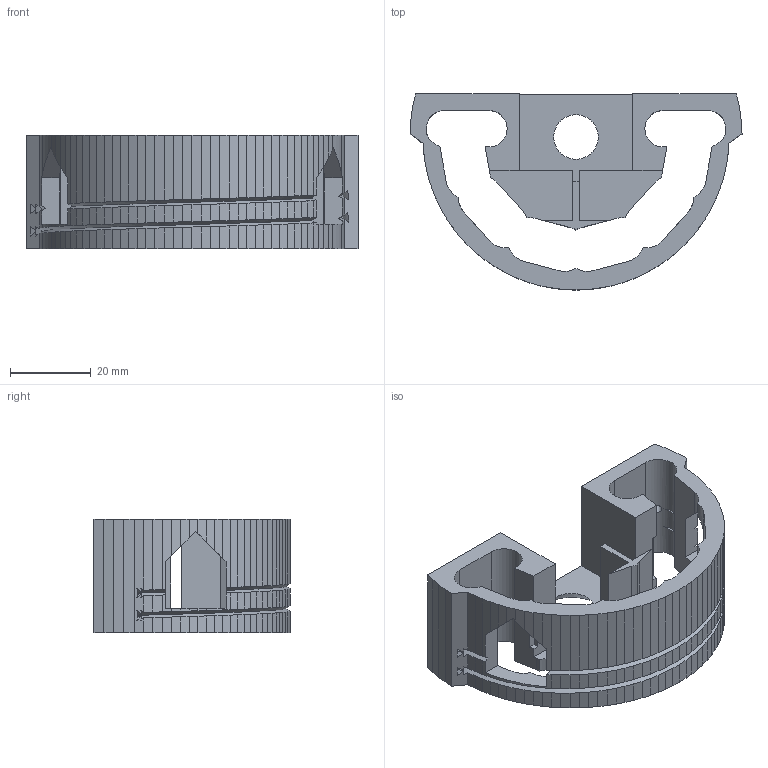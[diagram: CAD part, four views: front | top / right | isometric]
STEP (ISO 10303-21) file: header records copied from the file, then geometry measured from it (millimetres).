
FILE_DESCRIPTION(('Open CASCADE Model'),'2;1');
FILE_NAME('COMPOUND','2026-10-16T15:25:18',('Author'),('Open CASCADE'), 'Open CASCADE STEP processor 7.8','build123d','Unknown');
FILE_SCHEMA(('AUTOMOTIVE_DESIGN { 1 0 10303 214 1 1 1 1 }'));
Length unit declared in the file: millimetre
Products named in the file (2): =>[0:1:1:2]; COMPOUND
Assembly tree (1 placements, depth 2):
  =>[0:1:1:2]
    COMPOUND
Bounding box: 81.99 x 48.41 x 28 mm (x, y, z)
Volume: 27320.7 mm3; surface area: 17418 mm2
Topology: 1 solids, 1 shells, 265 faces, 814 edges, 540 vertices
Faces by surface type: plane 218, cylinder 30, bspline 16, cone 1
Full cylindrical faces by diameter (mm): 2 x2
Entity records: 22694 total; most frequent: CARTESIAN_POINT 8049, DIRECTION 2205, ORIENTED_EDGE 1628, PCURVE 1628, DEFINITIONAL_REPRESENTATION 1628, LINE 1561, VECTOR 1561, EDGE_CURVE 814
